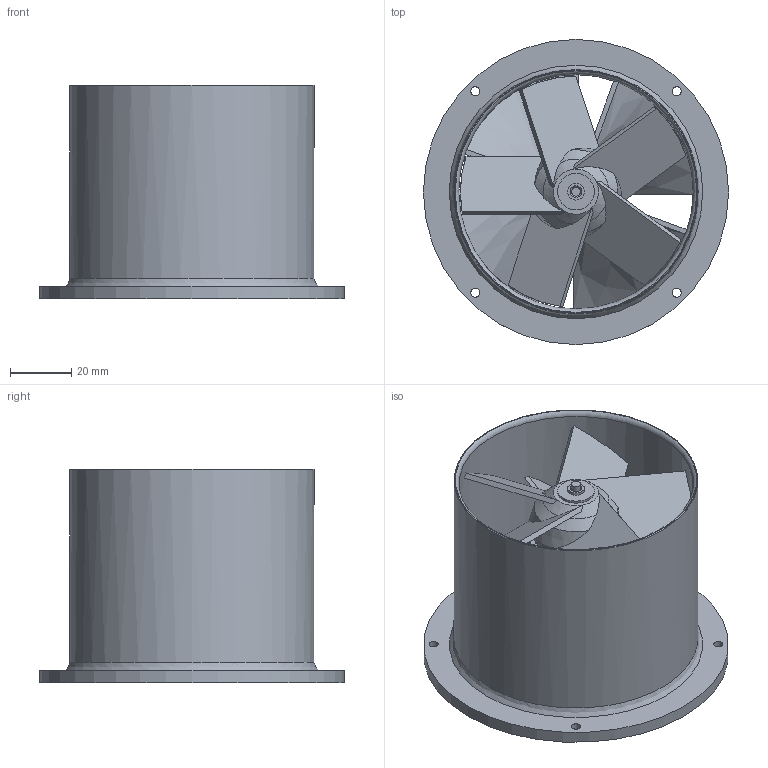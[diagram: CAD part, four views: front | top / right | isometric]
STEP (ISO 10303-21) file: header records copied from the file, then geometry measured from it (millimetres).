
FILE_DESCRIPTION(/* description */ (''),/* implementation_level */ '2;1');
FILE_NAME(/* name */ 'Fan D803P-012024KM-4.stp',/* time_stamp */ '2023-08-23T10:23:24+02:00',/* author */ (''),/* organization */ (''),/* preprocessor_version */ 'ST-DEVELOPER v16.7',/* originating_system */ 'SIEMENS PLM Software NX 1946',/* authorisation */ '');
FILE_SCHEMA (('AUTOMOTIVE_DESIGN { 1 0 10303 214 3 1 1 1 }'));
Length unit declared in the file: millimetre
Products named in the file (1): 020872_1-Fan D803P-012024KM-4 _-_
Bounding box: 100 x 100 x 70 mm (x, y, z)
Volume: 82355.4 mm3; surface area: 70506.2 mm2
Topology: 1 solids, 2 shells, 188 faces, 531 edges, 347 vertices
Faces by surface type: plane 68, cylinder 65, cone 30, bspline 22, revolution 2, torus 1
Full cylindrical faces by diameter (mm): 3 x6, 5.5 x1, 6.5 x1, 12 x1, 13 x1, 26 x1, 30.3 x1, 31 x1, 76.9 x1, 80 x1, 100 x1
Entity records: 6664 total; most frequent: CARTESIAN_POINT 2004, ORIENTED_EDGE 964, DIRECTION 954, EDGE_CURVE 482, AXIS2_PLACEMENT_3D 416, VERTEX_POINT 329, EDGE_LOOP 247, ADVANCED_FACE 187
